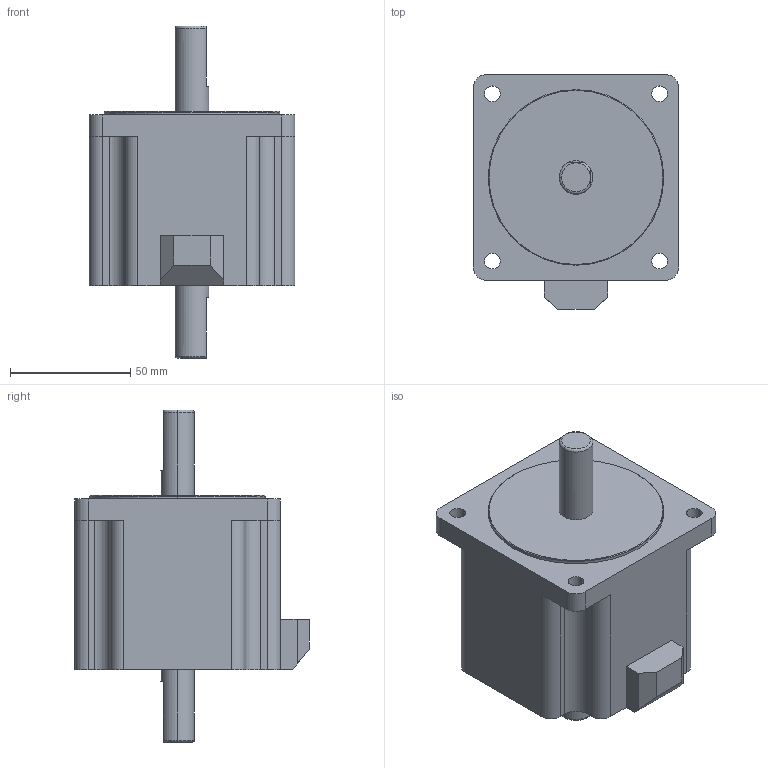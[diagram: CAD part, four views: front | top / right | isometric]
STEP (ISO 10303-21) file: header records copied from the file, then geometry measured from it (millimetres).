
FILE_DESCRIPTION (( 'STEP AP203' ), '1' );
FILE_NAME ('PMSA-B86D1HD_3D.STEP', '2016-12-02T04:27:20', ( 'user01' ), ( '' ), 'SwSTEP 2.0', 'SolidWorks 2014', '' );
FILE_SCHEMA (( 'CONFIG_CONTROL_DESIGN' ));
Length unit declared in the file: millimetre
Products named in the file (1): PMSA-B86D1HD_3D
Bounding box: 85.5 x 97.5 x 138.1 mm (x, y, z)
Volume: 484473.8 mm3; surface area: 43070.7 mm2
Topology: 1 solids, 2 shells, 80 faces, 213 edges, 140 vertices
Faces by surface type: plane 38, cylinder 32, torus 6, cone 4
Entity records: 2706 total; most frequent: CARTESIAN_POINT 546, DIRECTION 453, ORIENTED_EDGE 426, EDGE_CURVE 213, AXIS2_PLACEMENT_3D 167, VERTEX_POINT 140, VECTOR 119, LINE 119
